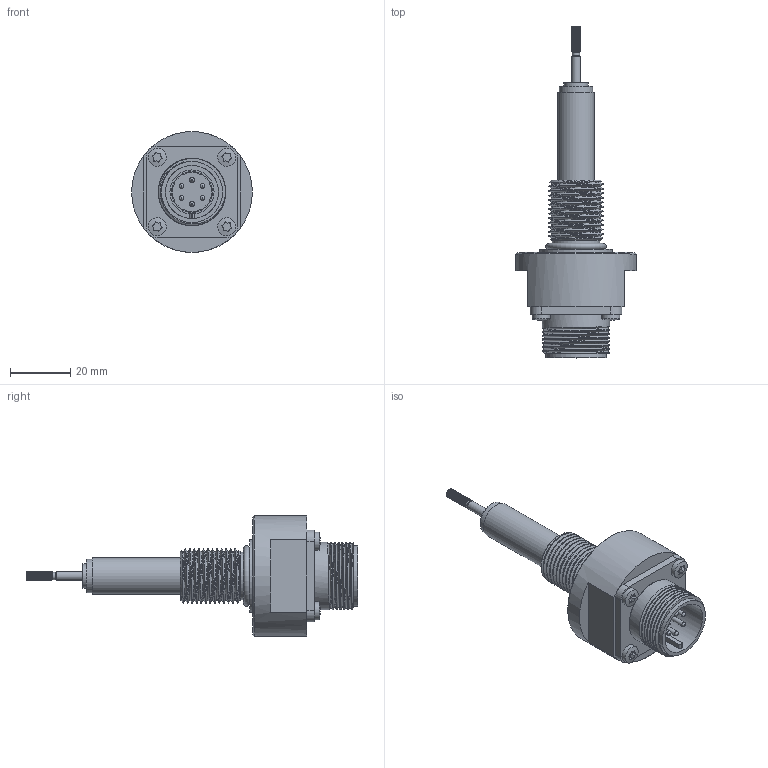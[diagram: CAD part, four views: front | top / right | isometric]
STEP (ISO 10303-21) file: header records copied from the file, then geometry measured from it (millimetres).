
FILE_DESCRIPTION( ( 'STEP AP214' ), '1' );
FILE_NAME( 'N:/Engineering/CAD_Solid/LVDT/HYD/Kunden-3D-Modell/SM5-HYD-18-S.stp', '2011-12-14T13:41:39', ( ' ' ), ( ' ' ), 'XStep 1.0', ' ', ' ' );
FILE_SCHEMA( ( 'CONFIG_CONTROL_DESIGN) ( )' ) );
Length unit declared in the file: metre
Products named in the file (17): 1; 2; 3; 4; 5; 6; 7; 8; 9; 10; 11; 12; 13; 14; 15; 16; 17
Bounding box: 40 x 109.9 x 40 mm (x, y, z)
Volume: 177.7 mm3; surface area: 14436 mm2
Topology: 1 solids, 135 shells, 143 faces, 638 edges, 593 vertices
Faces by surface type: plane 81, cylinder 37, bspline 13, cone 7, sphere 4, torus 1
Full cylindrical faces by diameter (mm): 1.6 x6, 2.4 x1, 3 x1, 4 x1, 6 x4, 8 x1, 11 x1, 12 x1, 15.8 x1, 17.6 x1, 20.2 x1, 22.3 x7, 24 x1, 40 x1
Entity records: 16973 total; most frequent: CARTESIAN_POINT 11505, DIRECTION 1032, ORIENTED_EDGE 565, EDGE_CURVE 565, VERTEX_POINT 565, AXIS2_PLACEMENT_3D 383, LINE 266, VECTOR 266
